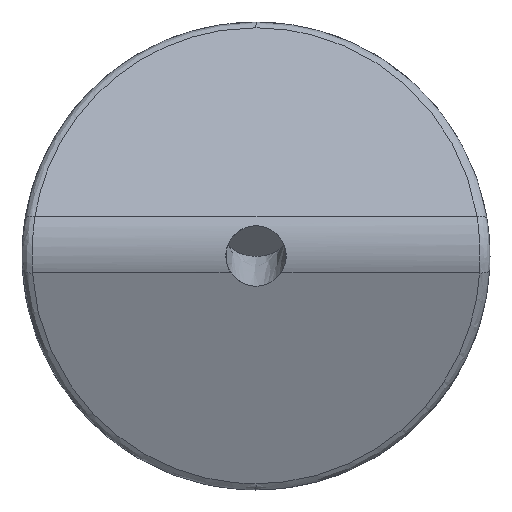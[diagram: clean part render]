
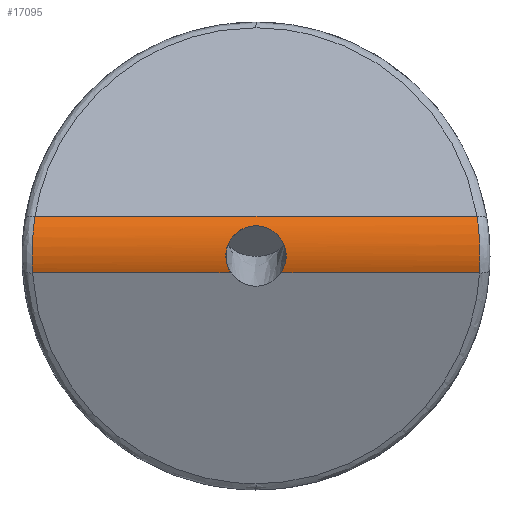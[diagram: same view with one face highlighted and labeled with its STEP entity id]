
A CAD part, front view. The second image highlights one B-rep face of the part: STEP entity #17095.
In plain terms, the highlighted cylindrical face has radius 7 mm (diameter 14 mm), a partial arc.
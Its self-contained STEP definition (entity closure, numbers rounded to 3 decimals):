
#242=B_SPLINE_CURVE_WITH_KNOTS('',3,(#29612,#29613,#29614,#29615,#29616,
#29617,#29618),.UNSPECIFIED.,.F.,.F.,(4,1,1,1,4),(0.,0.2,
0.4,0.6,0.697),.UNSPECIFIED.);
#245=B_SPLINE_CURVE_WITH_KNOTS('',3,(#29675,#29676,#29677,#29678,#29679),
 .UNSPECIFIED.,.F.,.F.,(4,1,4),(0.697,0.8,1.),.UNSPECIFIED.);
#260=B_SPLINE_CURVE_WITH_KNOTS('',3,(#29962,#29963,#29964,#29965,#29966,
#29967,#29968,#29969,#29970,#29971,#29972,#29973,#29974,#29975,#29976,#29977,
#29978,#29979),.UNSPECIFIED.,.F.,.F.,(4,2,2,2,2,2,2,2,4),(-1.377,
-1.264,-1.151,-1.037,-0.923,
-0.809,-0.694,-0.581,-0.468),
 .UNSPECIFIED.);
#261=B_SPLINE_CURVE_WITH_KNOTS('',3,(#29981,#29982,#29983,#29984,#29985,
#29986),.UNSPECIFIED.,.F.,.F.,(4,2,4),(-0.468,-0.35,
-0.291),.UNSPECIFIED.);
#262=B_SPLINE_CURVE_WITH_KNOTS('',3,(#29987,#29988,#29989,#29990,#29991,
#29992),.UNSPECIFIED.,.F.,.F.,(4,2,4),(-1.554,-1.496,
-1.377),.UNSPECIFIED.);
#263=B_SPLINE_CURVE_WITH_KNOTS('',3,(#29995,#29996,#29997,#29998,#29999),
 .UNSPECIFIED.,.F.,.F.,(4,1,4),(0.,0.2,0.303),
 .UNSPECIFIED.);
#264=B_SPLINE_CURVE_WITH_KNOTS('',3,(#30001,#30002,#30003,#30004,#30005,
#30006,#30007),.UNSPECIFIED.,.F.,.F.,(4,1,1,1,4),(0.303,0.4,
0.6,0.8,1.),.UNSPECIFIED.);
#504=CYLINDRICAL_SURFACE('',#18440,7.);
#1181=FACE_OUTER_BOUND('',#2091,.T.);
#2091=EDGE_LOOP('',(#14056,#14057,#14058,#14059,#14060,#14061,#14062,#14063,
#14064,#14065));
#4054=LINE('',#29400,#5849);
#4055=LINE('',#29401,#5850);
#4113=LINE('',#30008,#5908);
#5849=VECTOR('',#21844,19.731);
#5850=VECTOR('',#21845,19.731);
#5908=VECTOR('',#22073,43.942);
#7599=VERTEX_POINT('',#28430);
#7603=VERTEX_POINT('',#28965);
#7605=VERTEX_POINT('',#29397);
#7606=VERTEX_POINT('',#29398);
#7640=VERTEX_POINT('',#29610);
#7641=VERTEX_POINT('',#29611);
#7686=VERTEX_POINT('',#29960);
#7687=VERTEX_POINT('',#29961);
#7688=VERTEX_POINT('',#29994);
#7689=VERTEX_POINT('',#30000);
#9798=EDGE_CURVE('',#7606,#7599,#4054,.T.);
#9799=EDGE_CURVE('',#7603,#7605,#4055,.T.);
#9858=EDGE_CURVE('',#7640,#7641,#242,.T.);
#9862=EDGE_CURVE('',#7641,#7599,#245,.T.);
#9927=EDGE_CURVE('',#7686,#7687,#260,.F.);
#9929=EDGE_CURVE('',#7606,#7686,#261,.F.);
#9930=EDGE_CURVE('',#7687,#7605,#262,.F.);
#9931=EDGE_CURVE('',#7603,#7688,#263,.T.);
#9932=EDGE_CURVE('',#7688,#7689,#264,.T.);
#9933=EDGE_CURVE('',#7689,#7640,#4113,.T.);
#14056=ORIENTED_EDGE('',*,*,#9927,.T.);
#14057=ORIENTED_EDGE('',*,*,#9930,.T.);
#14058=ORIENTED_EDGE('',*,*,#9799,.F.);
#14059=ORIENTED_EDGE('',*,*,#9931,.T.);
#14060=ORIENTED_EDGE('',*,*,#9932,.T.);
#14061=ORIENTED_EDGE('',*,*,#9933,.T.);
#14062=ORIENTED_EDGE('',*,*,#9858,.T.);
#14063=ORIENTED_EDGE('',*,*,#9862,.T.);
#14064=ORIENTED_EDGE('',*,*,#9798,.F.);
#14065=ORIENTED_EDGE('',*,*,#9929,.T.);
#17095=ADVANCED_FACE('',(#1181),#504,.T.);
#18440=AXIS2_PLACEMENT_3D('',#29993,#22071,#22072);
#21844=DIRECTION('',(-1.,0.,0.));
#21845=DIRECTION('',(-1.,0.,0.));
#22071=DIRECTION('center_axis',(-1.,0.,0.));
#22072=DIRECTION('ref_axis',(0.,1.,0.));
#22073=DIRECTION('',(-1.,0.,0.));
#28430=CARTESIAN_POINT('',(-22.211,-1.687,12.676));
#28965=CARTESIAN_POINT('',(22.211,-1.687,12.676));
#29397=CARTESIAN_POINT('',(2.481,-1.687,12.676));
#29398=CARTESIAN_POINT('',(-2.481,-1.687,12.676));
#29400=CARTESIAN_POINT('',(-2.481,-1.687,12.676));
#29401=CARTESIAN_POINT('',(22.211,-1.687,12.676));
#29610=CARTESIAN_POINT('',(-21.971,3.939,12.521));
#29611=CARTESIAN_POINT('',(-22.25,0.,13.127));
#29612=CARTESIAN_POINT('Ctrl Pts',(-21.971,3.939,12.521));
#29613=CARTESIAN_POINT('Ctrl Pts',(-22.019,3.586,12.688));
#29614=CARTESIAN_POINT('Ctrl Pts',(-22.107,2.854,12.961));
#29615=CARTESIAN_POINT('Ctrl Pts',(-22.199,1.714,13.182));
#29616=CARTESIAN_POINT('Ctrl Pts',(-22.24,0.754,
13.207));
#29617=CARTESIAN_POINT('Ctrl Pts',(-22.249,0.185,
13.152));
#29618=CARTESIAN_POINT('Ctrl Pts',(-22.25,0.,
13.127));
#29675=CARTESIAN_POINT('Ctrl Pts',(-22.25,0.,
13.127));
#29676=CARTESIAN_POINT('Ctrl Pts',(-22.251,-0.197,
13.1));
#29677=CARTESIAN_POINT('Ctrl Pts',(-22.248,-0.771,
12.996));
#29678=CARTESIAN_POINT('Ctrl Pts',(-22.229,-1.33,12.821));
#29679=CARTESIAN_POINT('Ctrl Pts',(-22.211,-1.687,12.676));
#29960=CARTESIAN_POINT('',(-3.,0.,13.127));
#29961=CARTESIAN_POINT('',(3.,0.,13.127));
#29962=CARTESIAN_POINT('Ctrl Pts',(3.,0.,13.127));
#29963=CARTESIAN_POINT('Ctrl Pts',(3.,0.373,13.178));
#29964=CARTESIAN_POINT('Ctrl Pts',(2.926,0.774,13.199));
#29965=CARTESIAN_POINT('Ctrl Pts',(2.622,1.511,13.179));
#29966=CARTESIAN_POINT('Ctrl Pts',(2.393,1.847,13.139));
#29967=CARTESIAN_POINT('Ctrl Pts',(1.863,2.381,13.049));
#29968=CARTESIAN_POINT('Ctrl Pts',(1.526,2.614,12.993));
#29969=CARTESIAN_POINT('Ctrl Pts',(0.785,2.923,12.91));
#29970=CARTESIAN_POINT('Ctrl Pts',(0.381,3.,12.885));
#29971=CARTESIAN_POINT('Ctrl Pts',(-0.381,3.,
12.885));
#29972=CARTESIAN_POINT('Ctrl Pts',(-0.785,2.923,
12.91));
#29973=CARTESIAN_POINT('Ctrl Pts',(-1.526,2.614,12.993));
#29974=CARTESIAN_POINT('Ctrl Pts',(-1.863,2.381,13.049));
#29975=CARTESIAN_POINT('Ctrl Pts',(-2.393,1.847,13.139));
#29976=CARTESIAN_POINT('Ctrl Pts',(-2.622,1.511,13.179));
#29977=CARTESIAN_POINT('Ctrl Pts',(-2.926,0.774,
13.199));
#29978=CARTESIAN_POINT('Ctrl Pts',(-3.,0.373,13.178));
#29979=CARTESIAN_POINT('Ctrl Pts',(-3.,0.,13.127));
#29981=CARTESIAN_POINT('Ctrl Pts',(-3.,0.,13.127));
#29982=CARTESIAN_POINT('Ctrl Pts',(-3.,-0.392,13.073));
#29983=CARTESIAN_POINT('Ctrl Pts',(-2.919,-0.801,
12.98));
#29984=CARTESIAN_POINT('Ctrl Pts',(-2.684,-1.354,
12.805));
#29985=CARTESIAN_POINT('Ctrl Pts',(-2.589,-1.527,
12.741));
#29986=CARTESIAN_POINT('Ctrl Pts',(-2.481,-1.687,
12.676));
#29987=CARTESIAN_POINT('Ctrl Pts',(2.481,-1.687,12.676));
#29988=CARTESIAN_POINT('Ctrl Pts',(2.589,-1.527,12.741));
#29989=CARTESIAN_POINT('Ctrl Pts',(2.684,-1.354,12.805));
#29990=CARTESIAN_POINT('Ctrl Pts',(2.919,-0.801,12.98));
#29991=CARTESIAN_POINT('Ctrl Pts',(3.,-0.392,13.073));
#29992=CARTESIAN_POINT('Ctrl Pts',(3.,0.,13.127));
#29993=CARTESIAN_POINT('Origin',(25.,0.949,6.192));
#29994=CARTESIAN_POINT('',(22.25,0.,13.127));
#29995=CARTESIAN_POINT('Ctrl Pts',(22.211,-1.687,12.676));
#29996=CARTESIAN_POINT('Ctrl Pts',(22.229,-1.33,12.821));
#29997=CARTESIAN_POINT('Ctrl Pts',(22.248,-0.771,
12.996));
#29998=CARTESIAN_POINT('Ctrl Pts',(22.251,-0.197,
13.1));
#29999=CARTESIAN_POINT('Ctrl Pts',(22.25,0.,
13.127));
#30000=CARTESIAN_POINT('',(21.971,3.939,12.521));
#30001=CARTESIAN_POINT('Ctrl Pts',(22.25,0.,
13.127));
#30002=CARTESIAN_POINT('Ctrl Pts',(22.249,0.185,13.152));
#30003=CARTESIAN_POINT('Ctrl Pts',(22.24,0.754,13.207));
#30004=CARTESIAN_POINT('Ctrl Pts',(22.199,1.714,13.182));
#30005=CARTESIAN_POINT('Ctrl Pts',(22.107,2.854,12.961));
#30006=CARTESIAN_POINT('Ctrl Pts',(22.019,3.586,12.688));
#30007=CARTESIAN_POINT('Ctrl Pts',(21.971,3.939,12.521));
#30008=CARTESIAN_POINT('',(21.971,3.939,12.521));
